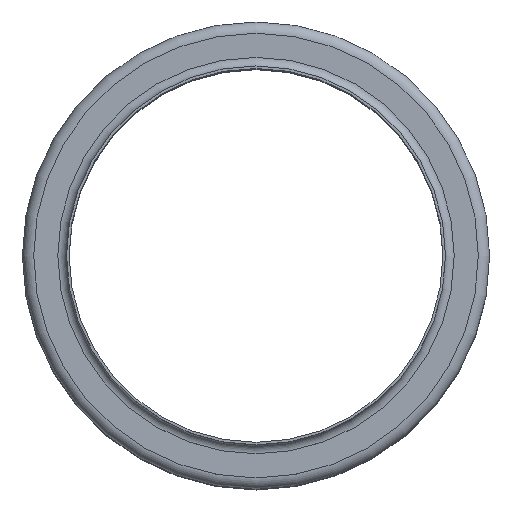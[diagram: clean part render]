
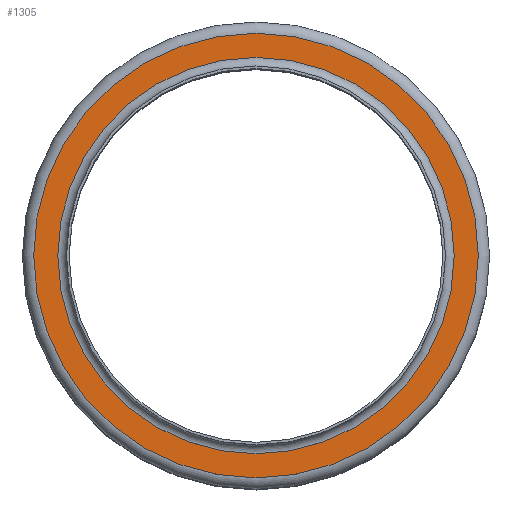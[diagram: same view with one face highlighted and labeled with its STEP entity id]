
A CAD part, top view. The second image highlights one B-rep face of the part: STEP entity #1305.
In plain terms, the highlighted planar face has unit normal (0, 0, 1).
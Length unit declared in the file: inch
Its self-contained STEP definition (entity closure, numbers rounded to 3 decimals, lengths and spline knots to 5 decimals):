
#130=FACE_BOUND('',#384,.T.);
#229=FACE_OUTER_BOUND('',#383,.T.);
#383=EDGE_LOOP('',(#1108));
#384=EDGE_LOOP('',(#1109));
#545=CIRCLE('',#1574,1.85575);
#546=CIRCLE('',#1576,2.08175);
#658=VERTEX_POINT('',#2470);
#659=VERTEX_POINT('',#2474);
#811=EDGE_CURVE('',#658,#658,#545,.T.);
#812=EDGE_CURVE('',#659,#659,#546,.T.);
#1108=ORIENTED_EDGE('',*,*,#812,.F.);
#1109=ORIENTED_EDGE('',*,*,#811,.T.);
#1206=PLANE('',#1575);
#1305=ADVANCED_FACE('',(#229,#130),#1206,.T.);
#1574=AXIS2_PLACEMENT_3D('',#2472,#2070,#2071);
#1575=AXIS2_PLACEMENT_3D('',#2473,#2072,#2073);
#1576=AXIS2_PLACEMENT_3D('',#2475,#2074,#2075);
#2070=DIRECTION('center_axis',(0.,0.,-1.));
#2071=DIRECTION('ref_axis',(1.,0.,0.));
#2072=DIRECTION('center_axis',(0.,0.,1.));
#2073=DIRECTION('ref_axis',(1.,0.,0.));
#2074=DIRECTION('center_axis',(0.,0.,-1.));
#2075=DIRECTION('ref_axis',(1.,0.,0.));
#2470=CARTESIAN_POINT('',(1.85575,0.,-0.08175));
#2472=CARTESIAN_POINT('Origin',(0.,0.,-0.08175));
#2473=CARTESIAN_POINT('Origin',(0.,2.08175,-0.08175));
#2474=CARTESIAN_POINT('',(2.08175,0.,-0.08175));
#2475=CARTESIAN_POINT('Origin',(0.,0.,-0.08175));
